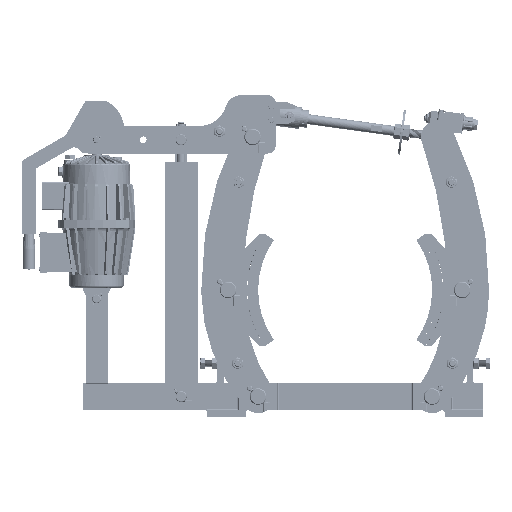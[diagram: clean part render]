
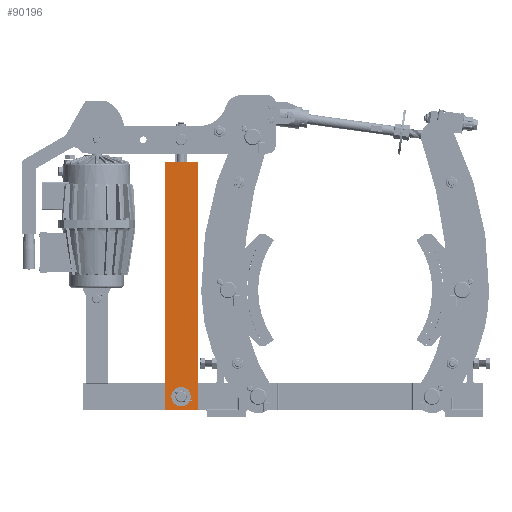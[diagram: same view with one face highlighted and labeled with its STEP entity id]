
A CAD part, left-side view. The second image highlights one B-rep face of the part: STEP entity #90196.
In plain terms, the highlighted planar face has unit normal (-1, 0, 0).
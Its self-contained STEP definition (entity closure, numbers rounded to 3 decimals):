
#90043=DIRECTION('',(0.,-1.,0.));
#90044=VECTOR('',#90043,60.);
#90045=CARTESIAN_POINT('',(-90.,577.,462.));
#90046=LINE('',#90045,#90044);
#90050=DIRECTION('',(0.,0.,-1.));
#90051=VECTOR('',#90050,450.);
#90052=CARTESIAN_POINT('',(-90.,517.,462.));
#90053=LINE('',#90052,#90051);
#90057=DIRECTION('',(0.,1.,0.));
#90058=VECTOR('',#90057,60.);
#90059=CARTESIAN_POINT('',(-90.,517.,12.));
#90060=LINE('',#90059,#90058);
#90064=DIRECTION('',(0.,0.,1.));
#90065=VECTOR('',#90064,450.);
#90066=CARTESIAN_POINT('',(-90.,577.,12.));
#90067=LINE('',#90066,#90065);
#90071=CARTESIAN_POINT('',(-90.,537.,37.));
#90072=CARTESIAN_POINT('',(-90.,537.,37.35));
#90073=CARTESIAN_POINT('',(-90.,537.037,38.047));
#90074=CARTESIAN_POINT('',(-90.,537.201,39.083));
#90075=CARTESIAN_POINT('',(-90.,537.472,40.096));
#90076=CARTESIAN_POINT('',(-90.,537.847,41.073));
#90077=CARTESIAN_POINT('',(-90.,538.325,42.011));
#90078=CARTESIAN_POINT('',(-90.,538.897,42.892));
#90079=CARTESIAN_POINT('',(-90.,539.558,43.707));
#90080=CARTESIAN_POINT('',(-90.,540.301,44.449));
#90081=CARTESIAN_POINT('',(-90.,541.116,45.108));
#90082=CARTESIAN_POINT('',(-90.,541.995,45.678));
#90083=CARTESIAN_POINT('',(-90.,542.93,46.154));
#90084=CARTESIAN_POINT('',(-90.,543.905,46.528));
#90085=CARTESIAN_POINT('',(-90.,544.917,46.799));
#90086=CARTESIAN_POINT('',(-90.,545.952,46.963));
#90087=CARTESIAN_POINT('',(-90.,546.649,47.));
#90088=CARTESIAN_POINT('',(-90.,547.,47.));
#90093=CARTESIAN_POINT('',(-90.,547.,47.));
#90094=CARTESIAN_POINT('',(-90.,547.35,47.));
#90095=CARTESIAN_POINT('',(-90.,548.047,46.963));
#90096=CARTESIAN_POINT('',(-90.,549.083,46.799));
#90097=CARTESIAN_POINT('',(-90.,550.096,46.528));
#90098=CARTESIAN_POINT('',(-90.,551.073,46.153));
#90099=CARTESIAN_POINT('',(-90.,552.011,45.675));
#90100=CARTESIAN_POINT('',(-90.,552.892,45.103));
#90101=CARTESIAN_POINT('',(-90.,553.707,44.442));
#90102=CARTESIAN_POINT('',(-90.,554.449,43.699));
#90103=CARTESIAN_POINT('',(-90.,555.108,42.884));
#90104=CARTESIAN_POINT('',(-90.,555.678,42.005));
#90105=CARTESIAN_POINT('',(-90.,556.154,41.07));
#90106=CARTESIAN_POINT('',(-90.,556.528,40.095));
#90107=CARTESIAN_POINT('',(-90.,556.799,39.083));
#90108=CARTESIAN_POINT('',(-90.,556.963,38.048));
#90109=CARTESIAN_POINT('',(-90.,557.,37.351));
#90110=CARTESIAN_POINT('',(-90.,557.,37.));
#90115=CARTESIAN_POINT('',(-90.,557.,37.));
#90116=CARTESIAN_POINT('',(-90.,557.,36.65));
#90117=CARTESIAN_POINT('',(-90.,556.963,35.953));
#90118=CARTESIAN_POINT('',(-90.,556.799,34.917));
#90119=CARTESIAN_POINT('',(-90.,556.528,33.904));
#90120=CARTESIAN_POINT('',(-90.,556.153,32.927));
#90121=CARTESIAN_POINT('',(-90.,555.675,31.989));
#90122=CARTESIAN_POINT('',(-90.,555.103,31.108));
#90123=CARTESIAN_POINT('',(-90.,554.442,30.293));
#90124=CARTESIAN_POINT('',(-90.,553.699,29.551));
#90125=CARTESIAN_POINT('',(-90.,552.884,28.892));
#90126=CARTESIAN_POINT('',(-90.,552.005,28.322));
#90127=CARTESIAN_POINT('',(-90.,551.07,27.846));
#90128=CARTESIAN_POINT('',(-90.,550.095,27.472));
#90129=CARTESIAN_POINT('',(-90.,549.083,27.201));
#90130=CARTESIAN_POINT('',(-90.,548.048,27.037));
#90131=CARTESIAN_POINT('',(-90.,547.351,27.));
#90132=CARTESIAN_POINT('',(-90.,547.,27.));
#90137=CARTESIAN_POINT('',(-90.,547.,27.));
#90138=CARTESIAN_POINT('',(-90.,546.65,27.));
#90139=CARTESIAN_POINT('',(-90.,545.953,27.037));
#90140=CARTESIAN_POINT('',(-90.,544.917,27.201));
#90141=CARTESIAN_POINT('',(-90.,543.904,27.472));
#90142=CARTESIAN_POINT('',(-90.,542.927,27.847));
#90143=CARTESIAN_POINT('',(-90.,541.989,28.325));
#90144=CARTESIAN_POINT('',(-90.,541.108,28.897));
#90145=CARTESIAN_POINT('',(-90.,540.293,29.558));
#90146=CARTESIAN_POINT('',(-90.,539.551,30.301));
#90147=CARTESIAN_POINT('',(-90.,538.892,31.116));
#90148=CARTESIAN_POINT('',(-90.,538.322,31.995));
#90149=CARTESIAN_POINT('',(-90.,537.846,32.93));
#90150=CARTESIAN_POINT('',(-90.,537.472,33.905));
#90151=CARTESIAN_POINT('',(-90.,537.201,34.917));
#90152=CARTESIAN_POINT('',(-90.,537.037,35.952));
#90153=CARTESIAN_POINT('',(-90.,537.,36.649));
#90154=CARTESIAN_POINT('',(-90.,537.,37.));
#90159=CARTESIAN_POINT('',(-90.,577.,462.));
#90160=CARTESIAN_POINT('',(-90.,517.,462.));
#90161=VERTEX_POINT('',#90159);
#90162=VERTEX_POINT('',#90160);
#90163=CARTESIAN_POINT('',(-90.,517.,12.));
#90164=VERTEX_POINT('',#90163);
#90165=CARTESIAN_POINT('',(-90.,577.,12.));
#90166=VERTEX_POINT('',#90165);
#90167=VERTEX_POINT('',#90071);
#90168=VERTEX_POINT('',#90088);
#90169=VERTEX_POINT('',#90110);
#90170=VERTEX_POINT('',#90132);
#90171=CARTESIAN_POINT('',(-90.,547.,237.));
#90172=DIRECTION('',(1.,0.,0.));
#90173=DIRECTION('',(0.,0.,1.));
#90174=AXIS2_PLACEMENT_3D('',#90171,#90172,#90173);
#90175=PLANE('',#90174);
#90177=ORIENTED_EDGE('',*,*,#90176,.T.);
#90179=ORIENTED_EDGE('',*,*,#90178,.T.);
#90181=ORIENTED_EDGE('',*,*,#90180,.T.);
#90183=ORIENTED_EDGE('',*,*,#90182,.T.);
#90184=EDGE_LOOP('',(#90177,#90179,#90181,#90183));
#90185=FACE_OUTER_BOUND('',#90184,.F.);
#90187=ORIENTED_EDGE('',*,*,#90186,.T.);
#90189=ORIENTED_EDGE('',*,*,#90188,.T.);
#90191=ORIENTED_EDGE('',*,*,#90190,.T.);
#90193=ORIENTED_EDGE('',*,*,#90192,.T.);
#90194=EDGE_LOOP('',(#90187,#90189,#90191,#90193));
#90195=FACE_BOUND('',#90194,.F.);
#90196=ADVANCED_FACE('',(#90185,#90195),#90175,.F.);
#90089=B_SPLINE_CURVE_WITH_KNOTS('',3,(#90071,#90072,#90073,#90074,#90075,
#90076,#90077,#90078,#90079,#90080,#90081,#90082,#90083,#90084,#90085,#90086,
#90087,#90088),.UNSPECIFIED.,.F.,.F.,(4,1,1,1,1,1,1,1,1,1,1,1,1,1,1,4),(0.,
0.067,0.133,0.2,0.267,0.333,
0.4,0.467,0.533,0.6,0.667,
0.733,0.8,0.867,0.933,1.),
.UNSPECIFIED.);
#90111=B_SPLINE_CURVE_WITH_KNOTS('',3,(#90093,#90094,#90095,#90096,#90097,
#90098,#90099,#90100,#90101,#90102,#90103,#90104,#90105,#90106,#90107,#90108,
#90109,#90110),.UNSPECIFIED.,.F.,.F.,(4,1,1,1,1,1,1,1,1,1,1,1,1,1,1,4),(0.,
0.067,0.133,0.2,0.267,0.333,
0.4,0.467,0.533,0.6,0.667,
0.733,0.8,0.867,0.933,1.),
.UNSPECIFIED.);
#90133=B_SPLINE_CURVE_WITH_KNOTS('',3,(#90115,#90116,#90117,#90118,#90119,
#90120,#90121,#90122,#90123,#90124,#90125,#90126,#90127,#90128,#90129,#90130,
#90131,#90132),.UNSPECIFIED.,.F.,.F.,(4,1,1,1,1,1,1,1,1,1,1,1,1,1,1,4),(0.,
0.067,0.133,0.2,0.267,0.333,
0.4,0.467,0.533,0.6,0.667,
0.733,0.8,0.867,0.933,1.),
.UNSPECIFIED.);
#90155=B_SPLINE_CURVE_WITH_KNOTS('',3,(#90137,#90138,#90139,#90140,#90141,
#90142,#90143,#90144,#90145,#90146,#90147,#90148,#90149,#90150,#90151,#90152,
#90153,#90154),.UNSPECIFIED.,.F.,.F.,(4,1,1,1,1,1,1,1,1,1,1,1,1,1,1,4),(0.,
0.067,0.133,0.2,0.267,0.333,
0.4,0.467,0.533,0.6,0.667,
0.733,0.8,0.867,0.933,1.),
.UNSPECIFIED.);
#90176=EDGE_CURVE('',#90161,#90162,#90046,.T.);
#90178=EDGE_CURVE('',#90162,#90164,#90053,.T.);
#90180=EDGE_CURVE('',#90164,#90166,#90060,.T.);
#90182=EDGE_CURVE('',#90166,#90161,#90067,.T.);
#90186=EDGE_CURVE('',#90167,#90168,#90089,.T.);
#90188=EDGE_CURVE('',#90168,#90169,#90111,.T.);
#90190=EDGE_CURVE('',#90169,#90170,#90133,.T.);
#90192=EDGE_CURVE('',#90170,#90167,#90155,.T.);
